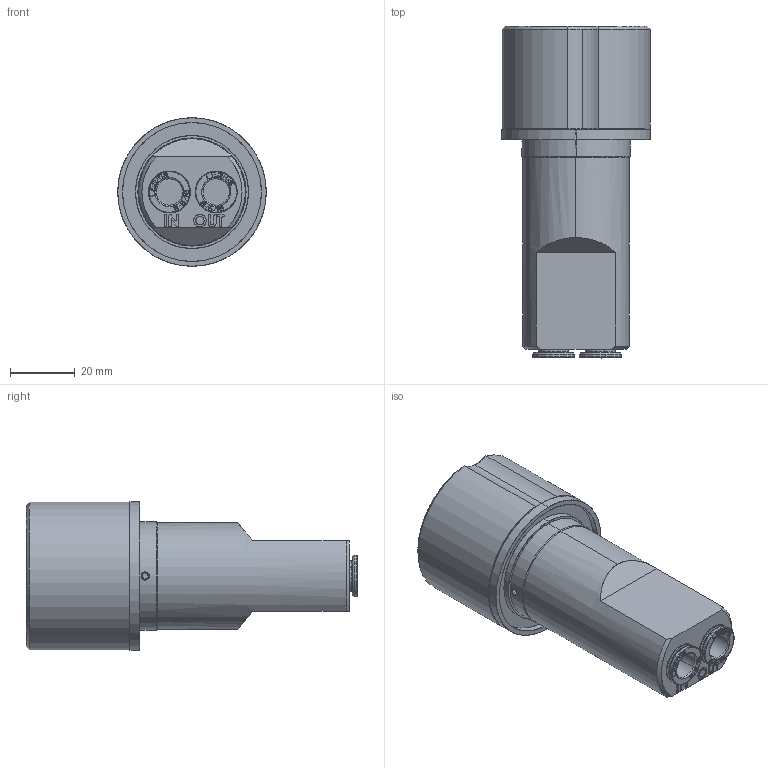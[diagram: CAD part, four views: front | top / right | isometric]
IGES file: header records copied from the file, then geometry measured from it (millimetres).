
Start section: SolidWorks IGES file using analytic representation for surfaces
Global section: file name: \\miscea-nas\FinalProductFiles\Technische Zeichnungen (MKTG)\_Hilfsdateien\FLOW\Mengenregulierung.IGS; native system: SolidWorks 2012; preprocessor: SolidWorks 2012; author: Michael; date: 160108.161532; units: millimetre
Bounding box: 46 x 102.85 x 46 mm (x, y, z)
Surface area: 17605.3 mm2 (no closed solid volume)
Topology: 0 solids, 0 shells, 340 faces, 4283 edges, 4283 vertices
Faces by surface type: bspline 269, revolution 71
